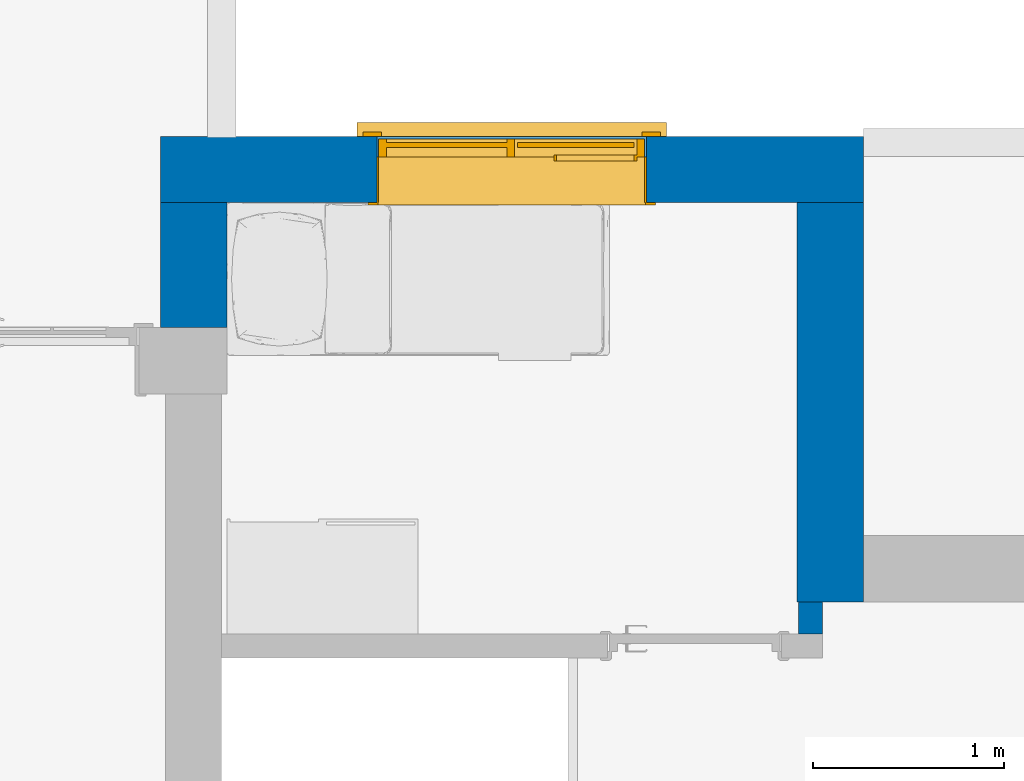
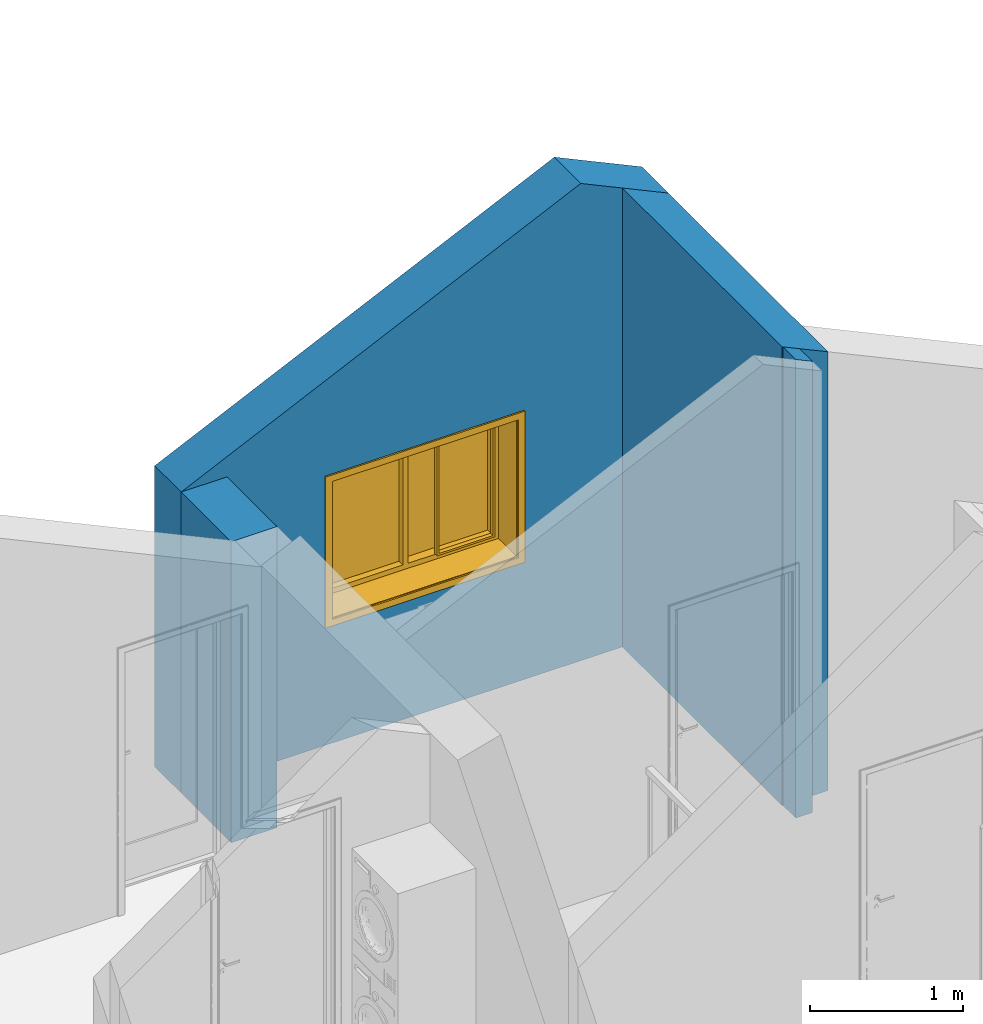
# One storey, part 19 of 44: 4 walls, 1 window, 1 opening.
"""IFC2X3 building model written with IfcOpenShell, lengths in millimetres."""

from ifc_helpers import new_model, entity, si_unit, converted_unit, direction, frame, frame_2d, origin, place, context, subcontext, project, spatial, polyline, rectangle, extrude, clip, bounded_halfspace, faceted_brep, source, transform, mapped, material, material_list, layer, layer_set, layer_usage, type_object, type_shapes, element, fill, save


model = new_model("IFC2X3")

# Units and contexts
model_context = context("Model", 3, precision=0.01, world=origin(), true_north=direction((0.0, 1.0)))
body_context = subcontext(model_context, "Body", "Model", "MODEL_VIEW")
ifc_project = project(units=[si_unit("LENGTHUNIT", "METRE", prefix="MILLI"), si_unit("AREAUNIT", "SQUARE_METRE"), si_unit("VOLUMEUNIT", "CUBIC_METRE"), converted_unit("PLANEANGLEUNIT", "DEGREE", entity("IfcPlaneAngleMeasure", 0.017453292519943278), si_unit("PLANEANGLEUNIT", "RADIAN"), dimensions=[0, 0, 0, 0, 0, 0, 0])], contexts=[model_context])

# Site, building, storey
site_placement = place(None, origin())
site = spatial("IfcSite", under=ifc_project, at=site_placement, Name="Default", CompositionType="ELEMENT")
building_placement = place(site_placement, origin())
building = spatial("IfcBuilding", under=site, at=building_placement, CompositionType="ELEMENT")
storey_placement = place(building_placement, frame((0.0, 0.0, 2681.0)))
storey = spatial("IfcBuildingStorey", under=building, at=storey_placement, Name="Et. 2", CompositionType="ELEMENT", Elevation=2681.0)

# Wall
ifc_material_1 = material(Name="Vegg - Stående Kledning_smal - HVIT")
ifc_layer_1 = layer(ifc_material_1, 19.0)
ifc_material_2 = material(Name="Vegg - Utlekting")
ifc_layer_2 = layer(ifc_material_2, 36.0)
ifc_layer_3 = layer(ifc_material_2, 23.0)
ifc_material_3 = material(Name="Vegg - Gips - GU")
ifc_layer_4 = layer(ifc_material_3, 9.0)
ifc_material_4 = material(Name="Vegg - Stender - Isolert")
ifc_layer_5 = layer(ifc_material_4, 198.0)
ifc_material_5 = material(Name="Vegg - Påforing - Isolert")
ifc_layer_6 = layer(ifc_material_5, 48.0)
ifc_material_6 = material(Name="Vegg - Gips - Hvit")
ifc_layer_7 = layer(ifc_material_6, 13.000000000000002)
ifc_layer_set_1 = layer_set([ifc_layer_1, ifc_layer_2, ifc_layer_3, ifc_layer_4, ifc_layer_5, ifc_layer_6, ifc_layer_7], Name="Basic Wall:23-Kv(sm)TIG-19_36_23_9_198_48_13")
ifc_layer_usage_1 = layer_usage(ifc_layer_set_1, "AXIS2", "NEGATIVE", 173.0)
wall_type_1 = type_object("IfcWallType", Name="Basic Wall:23-Kv(sm)TIG-19_36_23_9_198_48_13", PredefinedType="STANDARD", material=ifc_layer_set_1)
wall_1_placement = place(storey_placement, frame((16178.009586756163, 17082.180957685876, 0.0), z_axis=(0.0, 0.0, 1.0), x_axis=(0.0, 1.0, 0.0)))
element("IfcWallStandardCase", 1, at=wall_1_placement, inside=storey, type_object=wall_type_1, material=ifc_layer_usage_1, Name="Basic Wall:23-Kv(sm)TIG-19_36_23_9_198_48_13", context=body_context, shape_type="SweptSolid", body=[
    extrude(rectangle(XDim=654.000000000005, YDim=345.9999999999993, at=frame_2d((327.0000000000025, 7.247535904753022e-13), x_axis=(-1.0, 0.0))), origin(), (0.0, 0.0, 1.0), 2400.0),
])

# Wall, opening, window
ifc_layer_usage_2 = layer_usage(ifc_layer_set_1, "AXIS2", "NEGATIVE", 173.0)
wall_2_placement = place(storey_placement, frame((16005.009586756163, 17909.18095768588, 0.0)))
wall_2 = element("IfcWallStandardCase", 2, at=wall_2_placement, inside=storey, type_object=wall_type_1, material=ifc_layer_usage_2, Name="Basic Wall:23-Kv(sm)TIG-19_36_23_9_198_48_13", context=body_context, shape_type="Clipping", body=[
    clip(clip(extrude(rectangle(XDim=3672.9999999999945, YDim=345.9999999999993, at=frame_2d((1836.4999999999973, -2.2737367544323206e-13), x_axis=(-1.0, 0.0))), origin(), (0.0, 0.0, 1.0), 3805.2181278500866), bounded_halfspace(frame((0.0, -173.0, 2400.0), z_axis=(-0.42261826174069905, 0.0, 0.9063077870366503), x_axis=(0.0, -1.0, 0.0)), False, frame((0.0, -173.0, 2400.0)), polyline([(0.0, 0.0), (27.0, 0.0), (3013.500000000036, 0.0), (3013.500000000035, 346.0), (27.0, 346.0), (0.0, 346.0), (0.0, 0.0)]))), bounded_halfspace(frame((3013.500000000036, -173.0, 3805.2181278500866), z_axis=(0.42261826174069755, 0.0, 0.9063077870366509), x_axis=(0.0, 1.0, 0.0)), False, frame((3013.500000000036, -173.0, 3805.2181278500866)), polyline([(0.0, 0.0), (313.4999999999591, 0.0), (659.4999999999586, 0.0), (659.4999999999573, 346.0), (0.0, 346.0), (0.0, 0.0)]))),
])
opening_placement = place(wall_2_placement, frame((1130.0, -173.0, 990.0)))
opening = element("IfcOpeningElement", 3, at=opening_placement, cuts=wall_2, Name="2 ruter vert-post åpning-fast m omramming:14x11M:1", ObjectType="Opening", context=body_context, shape_type="SweptSolid", body=[
    extrude(rectangle(XDim=1410.0000000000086, YDim=1109.9999999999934, at=frame_2d((554.9999999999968, 705.0000000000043), x_axis=(0.0, -1.0))), frame((0.0, 0.0, 0.0), z_axis=(0.0, 1.0, 0.0), x_axis=(0.0, 0.0, 1.0)), (0.0, 0.0, 1.0), 346.0),
])
ifc_material_7 = material(Name="Omramming")
ifc_material_8 = material(Name="Glass - Klart")
ifc_material_9 = material(Name="Karm")
ifc_material_list = material_list([ifc_material_7, ifc_material_8, ifc_material_9])
window_style = type_object("IfcWindowStyle", Name="2 ruter vert-post åpning-fast m omramming:14x11M", ConstructionType="NOTDEFINED", OperationType="NOTDEFINED", ParameterTakesPrecedence=False, Sizeable=False, material=ifc_material_list)
shared_shape = source(origin(), body_context, "Body", "Brep", [
    faceted_brep([(-73.0, 368.0, 1199.153701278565), (25.0, 368.0, 1199.153701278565), (25.0, 368.0, 4.105117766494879), (-73.0, 368.0, 4.105117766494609), (1385.0, 346.0, -110.0), (1483.0, 346.0, -110.0), (1483.0, 346.0, -12.776075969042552), (1513.0, 346.0, -12.776075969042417), (1513.0, 346.0, 10.0), (1483.0, 346.0, 10.0), (1483.0, 346.0, 1199.153701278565), (1385.0, 346.0, 1199.153701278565), (1385.0, 346.0, 10.0), (25.0, 346.0, 10.0), (25.0, 346.0, 1199.153701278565), (-73.0, 346.0, 1199.153701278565), (-73.0, 346.0, 10.0), (-103.0, 346.0, 10.0), (-103.0, 346.0, -12.776075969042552), (-73.0, 346.0, -12.776075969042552), (-73.0, 346.0, -110.0), (25.0, 346.0, -110.0), (25.0, 346.0, -12.776075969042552), (1385.0, 346.0, -12.776075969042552), (1483.0, 368.0, 1199.153701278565), (1385.0, 368.0, 1199.153701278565), (1483.0, 368.0, 4.105117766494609), (1385.0, 368.0, -110.0), (1483.0, 368.0, -110.0), (1385.0, 368.0, 4.105117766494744), (-73.0, 368.0, -110.0), (25.0, 368.0, -110.0), (-103.0, 413.6148078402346, -30.89340912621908), (-103.0, 419.3088268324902, -9.643040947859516), (1513.0, 413.6148078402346, -30.89340912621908), (1513.0, 419.3088268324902, -9.643040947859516), (1483.0, 368.0, -18.670958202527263), (1385.0, 368.0, -18.670958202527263), (25.0, 368.0, -18.670958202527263), (-73.0, 368.0, -18.670958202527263)], [[[0, 1, 2, 3]], [[4, 5, 6, 7, 8, 9, 10, 11, 12, 13, 14, 15, 16, 17, 18, 19, 20, 21, 22, 23]], [[24, 25, 11, 10]], [[24, 10, 9, 26]], [[27, 28, 5, 4]], [[11, 25, 29, 12]], [[1, 0, 15, 14]], [[1, 14, 13, 2]], [[30, 31, 21, 20]], [[15, 0, 3, 16]], [[32, 18, 17, 33]], [[34, 35, 8, 7]], [[18, 32, 34, 7, 6, 36, 37, 23, 22, 38, 39, 19]], [[33, 17, 16, 3, 2, 13, 12, 29, 26, 9, 8, 35]], [[32, 33, 35, 34]], [[30, 20, 19, 39]], [[21, 31, 38, 22]], [[27, 4, 23, 37]], [[5, 28, 36, 6]], [[31, 30, 39, 38]], [[25, 24, 26, 29]], [[28, 27, 37, 36]]]),
    faceted_brep([(1513.0, 413.52687511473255, 1180.8011105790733), (1513.0, 418.4444369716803, 1199.153701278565), (1513.0, 346.0, 1218.5651296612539), (1513.0, 346.0, 1198.894882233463), (-103.0, 413.52687511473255, 1180.8011105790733), (-103.0, 346.0, 1198.894882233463), (-103.0, 346.0, 1218.5651296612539), (-103.0, 418.4444369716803, 1199.153701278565)], [[[0, 1, 2, 3]], [[4, 5, 6, 7]], [[1, 0, 4, 7]], [[2, 1, 7, 6]], [[3, 2, 6, 5]], [[0, 3, 5, 4]]]),
    faceted_brep([(25.0, 368.0, 1193.0), (1385.0, 368.0, 1193.0), (1385.0, 368.0, 1095.0), (25.0, 368.0, 1095.0), (25.0, 346.0, 1193.0), (25.0, 346.0, 1095.0), (1385.0, 346.0, 1095.0), (1385.0, 346.0, 1193.0)], [[[0, 1, 2, 3]], [[4, 5, 6, 7]], [[1, 0, 4, 7]], [[2, 1, 7, 6]], [[3, 2, 6, 5]], [[0, 3, 5, 4]]]),
    faceted_brep([(1385.0, 368.0, -20.0), (25.0, 368.0, -20.0), (25.0, 346.0, -20.0), (1385.0, 346.0, -20.0), (1385.0, 368.0, -92.0), (1385.0, 346.0, -92.0), (25.0, 368.0, -92.0), (25.0, 346.0, -92.0)], [[[0, 1, 2, 3]], [[4, 0, 3, 5]], [[6, 4, 5, 7]], [[1, 6, 7, 2]], [[2, 7, 5, 3]], [[1, 0, 4, 6]]]),
    faceted_brep([(1345.0, 288.49999999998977, 65.0), (1345.0, 288.4999999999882, 1045.0), (735.0, 288.4999999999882, 1045.0), (735.0, 288.49999999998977, 65.0), (1345.0, 313.49999999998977, 65.0), (735.0, 313.49999999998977, 65.0), (735.0, 313.4999999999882, 1045.0), (1345.0, 313.4999999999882, 1045.0)], [[[0, 1, 2, 3]], [[4, 5, 6, 7]], [[1, 0, 4, 7]], [[2, 1, 7, 6]], [[3, 2, 6, 5]], [[0, 3, 5, 4]]]),
    faceted_brep([(720.0, 331.0, 50.0), (720.0, 331.0, 1060.0), (720.0, 239.0, 1060.0), (720.0, 239.0, 50.0), (1400.0, 239.0, 10.0), (1400.0, 239.0, 1100.0), (10.0, 239.0, 1100.0), (10.0, 239.0, 10.0), (680.0, 239.0, 1060.0), (680.0, 239.0, 50.0), (50.0, 239.0, 50.0), (50.0, 239.0, 1060.0), (925.0, 239.0, 1060.0), (1360.0, 239.0, 1060.0), (1360.0, 239.0, 50.0), (925.0, 239.0, 50.0), (680.0, 331.0, 1060.0), (680.0, 331.0, 50.0), (1360.0, 331.0, 50.0), (1360.0, 331.0, 1060.0), (50.0, 331.0, 1060.0), (50.0, 331.0, 50.0), (1400.0, 331.0, 1100.0), (1400.0, 331.0, 10.0), (10.0, 331.0, 10.0), (10.0, 331.0, 1100.0), (1360.0, 248.0, 50.0), (1360.0, 248.0, 1060.0), (925.0, 248.0, 1060.0), (940.0, 216.0, 65.0), (940.0, 248.0, 65.0), (940.0, 248.0, 1045.0), (940.0, 216.0, 1045.0), (1345.0, 248.0, 1045.0), (1345.0, 216.0, 1045.0), (1345.0, 248.0, 65.0), (1345.0, 216.0, 65.0), (925.0, 248.0, 50.0), (925.0, 216.0, 50.0), (925.0, 216.0, 1060.0), (1360.0, 216.0, 1060.0), (1360.0, 216.0, 50.0)], [[[0, 1, 2, 3]], [[4, 5, 6, 7], [8, 9, 10, 11], [3, 2, 12, 13, 14, 15]], [[9, 8, 16, 17]], [[1, 0, 18, 19], [17, 16, 20, 21], [22, 23, 24, 25]], [[4, 23, 22, 5]], [[19, 18, 26, 27]], [[5, 22, 25, 6]], [[1, 19, 27, 28, 12, 2]], [[6, 25, 24, 7]], [[20, 11, 10, 21]], [[23, 4, 7, 24]], [[21, 10, 9, 17]], [[29, 30, 31, 32]], [[32, 31, 33, 34]], [[34, 33, 35, 36]], [[30, 29, 36, 35]], [[31, 30, 35, 33], [37, 28, 27, 26]], [[38, 39, 12, 28, 37, 15]], [[39, 40, 13, 12]], [[40, 41, 14, 13]], [[29, 32, 34, 36], [39, 38, 41, 40]], [[41, 38, 15, 14]], [[18, 0, 3, 15, 37, 26]], [[11, 20, 16, 8]]], outer=[[True], [True, False, False], [True], [False, False, True], [True], [True], [True], [True], [True], [True], [True], [True], [True], [True], [True], [True], [False, True], [True], [True], [True], [False, True], [True], [True], [True]]),
    faceted_brep([(680.0, 288.49999999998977, 50.0), (680.0, 288.4999999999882, 1060.0), (50.0, 288.4999999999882, 1060.0), (50.0, 288.49999999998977, 50.0), (680.0, 313.49999999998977, 50.0), (50.0, 313.49999999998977, 50.0), (50.0, 313.4999999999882, 1060.0), (680.0, 313.4999999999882, 1060.0)], [[[0, 1, 2, 3]], [[4, 5, 6, 7]], [[1, 0, 4, 7]], [[2, 1, 7, 6]], [[3, 2, 6, 5]], [[0, 3, 5, 4]]]),
    faceted_brep([(1410.0, 239.0, 1110.0), (1410.0, 239.0, 0.0), (0.0, 239.0, 0.0), (0.0, 239.0, 1110.0), (10.0, 239.0, 10.0), (1400.0, 239.0, 10.0), (1400.0, 239.0, 1100.0), (10.0, 239.0, 1100.0), (1410.0, 0.0, 1110.0), (0.0, 0.0, 1110.0), (0.0, 0.0, 0.0), (1410.0, 0.0, 0.0), (10.0, 0.0, 10.0), (10.0, 0.0, 1100.0), (1400.0, 0.0, 1100.0), (1400.0, 0.0, 10.0)], [[[0, 1, 2, 3], [4, 5, 6, 7]], [[8, 9, 10, 11], [12, 13, 14, 15]], [[1, 0, 8, 11]], [[2, 1, 11, 10]], [[3, 2, 10, 9]], [[0, 3, 9, 8]], [[5, 4, 12, 15]], [[6, 5, 15, 14]], [[7, 6, 14, 13]], [[4, 7, 13, 12]]]),
    faceted_brep([(1405.0, -12.0, 1105.0), (1405.0, 0.0, 1105.0), (1405.0, 0.0, 5.0), (1405.0, -12.0, 5.0), (1457.0, 0.0, 1157.0), (1457.0, -12.0, 1157.0), (1457.0, -12.0, -47.0), (1457.0, 0.0, -47.0), (5.0, 0.0, 5.0), (5.0, -12.0, 5.0), (-47.0, -12.0, -47.0), (-47.0, 0.0, -47.0), (5.0, 0.0, 1105.0), (5.0, -12.0, 1105.0), (-47.0, -12.0, 1157.0), (-47.0, 0.0, 1157.0)], [[[0, 1, 2, 3]], [[4, 5, 6, 7]], [[3, 2, 8, 9]], [[7, 6, 10, 11]], [[9, 8, 12, 13]], [[11, 10, 14, 15]], [[7, 11, 15, 4], [1, 12, 8, 2]], [[13, 12, 1, 0]], [[3, 9, 13, 0], [5, 14, 10, 6]], [[15, 14, 5, 4]]], outer=[[True], [True], [True], [True], [True], [True], [True, False], [True], [False, True], [True]]),
])
type_shapes(window_style, [shared_shape])
window_placement = place(opening_placement, origin())
window = element("IfcWindow", 4, at=window_placement, inside=storey, type_object=window_style, material=ifc_material_list, Name="2 ruter vert-post åpning-fast m omramming:14x11M", OverallHeight=1109.9999999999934, OverallWidth=1410.0000000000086, context=body_context, shape_type="MappedRepresentation", body=[
    mapped(shared_shape, transform((0.0, 0.0, 0.0), scale=1.0)),
])
fill(opening, window)

# Walls
ifc_layer_usage_3 = layer_usage(ifc_layer_set_1, "AXIS2", "NEGATIVE", 173.0)
wall_3_placement = place(storey_placement, frame((19505.009586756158, 17736.18095768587, 0.0), z_axis=(0.0, 0.0, 1.0), x_axis=(0.0, -1.0, 0.0)))
element("IfcWallStandardCase", 5, at=wall_3_placement, inside=storey, type_object=wall_type_1, material=ifc_layer_usage_3, Name="Basic Wall:23-Kv(sm)TIG-19_36_23_9_198_48_13", context=body_context, shape_type="Clipping", body=[
    clip(extrude(rectangle(XDim=2087.0, YDim=345.9999999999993, at=frame_2d((1043.5, 1.9895196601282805e-13), x_axis=(-1.0, 0.0))), origin(), (0.0, 0.0, 1.0), 3659.030677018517), bounded_halfspace(frame((0.0, -173.0, 3659.030677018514), z_axis=(0.0, 0.42261826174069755, 0.9063077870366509), x_axis=(-1.0, 0.0, 0.0)), False, frame((0.0, -173.0, 3659.030677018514)), polyline([(0.0, 0.0), (2087.0, 0.0), (2087.0, 6.0), (2087.0, 132.0), (2087.0, 346.0), (1741.0, 346.0), (0.0, 346.0), (0.0, 0.0)]))),
])
ifc_material_10 = material(Name="Vegg - Gips - Innvendig - Hvit")
ifc_layer_8 = layer(ifc_material_10, 13.000000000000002)
ifc_material_11 = material(Name="Vegg - Stender - Stål - Isolert")
ifc_layer_9 = layer(ifc_material_11, 100.0)
ifc_layer_10 = layer(ifc_material_10, 13.000000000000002)
ifc_layer_set_2 = layer_set([ifc_layer_8, ifc_layer_9, ifc_layer_10], Name="Basic Wall:24-GSIG-13_100_13")
ifc_layer_usage_4 = layer_usage(ifc_layer_set_2, "AXIS2", "POSITIVE", -63.00000000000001)
wall_type_2 = type_object("IfcWallType", Name="Basic Wall:24-GSIG-13_100_13", PredefinedType="STANDARD", material=ifc_layer_set_2)
wall_4_placement = place(storey_placement, frame((19401.009586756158, 15482.180957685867, 0.0), z_axis=(0.0, 0.0, 1.0), x_axis=(0.0, 1.0, 0.0)))
element("IfcWallStandardCase", 6, at=wall_4_placement, inside=storey, type_object=wall_type_2, material=ifc_layer_usage_4, Name="Basic Wall:24-GSIG-13_100_13", context=body_context, shape_type="Clipping", body=[
    clip(extrude(rectangle(XDim=167.00000000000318, YDim=126.00000000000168, at=frame_2d((83.50000000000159, 0.0), x_axis=(-1.0, 0.0))), origin(), (0.0, 0.0, 1.0), 3656.2328310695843), bounded_halfspace(frame((0.0, -63.0, 3597.4780661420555), z_axis=(0.0, -0.42261826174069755, 0.9063077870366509), x_axis=(1.0, 0.0, 0.0)), False, frame((0.0, -63.0, 3597.4780661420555)), polyline([(0.0, 0.0), (167.0, 0.0), (167.0, 126.0), (0.0, 126.0), (0.0, 0.0)]))),
])

save(model, "model.ifc")
